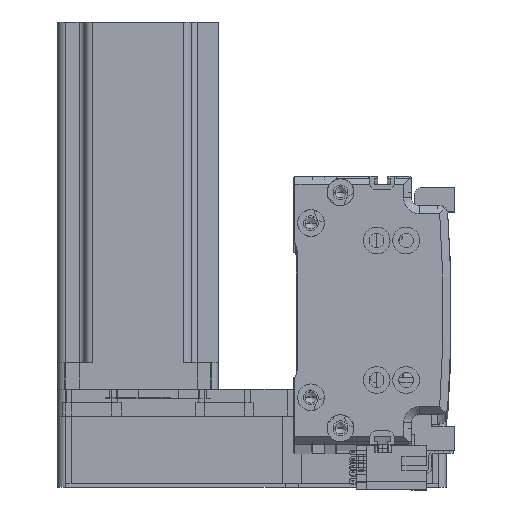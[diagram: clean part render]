
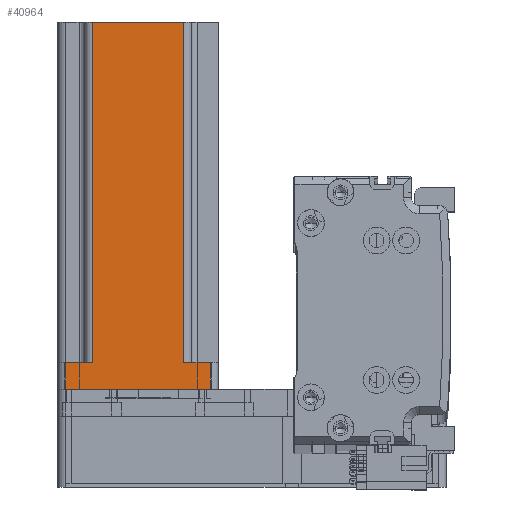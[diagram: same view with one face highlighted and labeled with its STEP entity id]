
A CAD part, top view. The second image highlights one B-rep face of the part: STEP entity #40964.
In plain terms, the highlighted planar face has unit normal (0, 0, 1) as drawn and (0, 1, 0) by its records, which use the part's own axes.
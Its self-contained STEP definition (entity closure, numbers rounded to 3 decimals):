
#1918 = DIRECTION ( 'NONE',  ( 0., -1., 0. ) ) ;
#2081 = LINE ( 'NONE', #56407, #14012 ) ;
#2685 = CARTESIAN_POINT ( 'NONE',  ( -17., 30., 10. ) ) ;
#3516 = CARTESIAN_POINT ( 'NONE',  ( -17., 30., 137. ) ) ;
#4682 = ORIENTED_EDGE ( 'NONE', *, *, #38239, .T. ) ;
#5102 = DIRECTION ( 'NONE',  ( 0., 0., 1. ) ) ;
#6362 = CARTESIAN_POINT ( 'NONE',  ( 27., 30., 0. ) ) ;
#6747 = LINE ( 'NONE', #44540, #59322 ) ;
#7753 = AXIS2_PLACEMENT_3D ( 'NONE', #32478, #1918, #37545 ) ;
#8134 = ORIENTED_EDGE ( 'NONE', *, *, #38526, .F. ) ;
#9488 = LINE ( 'NONE', #22908, #21506 ) ;
#10273 = CARTESIAN_POINT ( 'NONE',  ( -27., 30., 10. ) ) ;
#11523 = DIRECTION ( 'NONE',  ( -1., 0., 0. ) ) ;
#11804 = ORIENTED_EDGE ( 'NONE', *, *, #30754, .T. ) ;
#11969 = VERTEX_POINT ( 'NONE', #55093 ) ;
#12232 = LINE ( 'NONE', #42052, #24224 ) ;
#13953 = DIRECTION ( 'NONE',  ( 0., 0., -1. ) ) ;
#14012 = VECTOR ( 'NONE', #61522, 1000. ) ;
#18457 = VERTEX_POINT ( 'NONE', #2685 ) ;
#21506 = VECTOR ( 'NONE', #58494, 1000. ) ;
#22474 = VERTEX_POINT ( 'NONE', #60575 ) ;
#22862 = VERTEX_POINT ( 'NONE', #3516 ) ;
#22908 = CARTESIAN_POINT ( 'NONE',  ( -20., 30., 10. ) ) ;
#23657 = VECTOR ( 'NONE', #25505, 1000. ) ;
#24224 = VECTOR ( 'NONE', #11523, 1000. ) ;
#24299 = DIRECTION ( 'NONE',  ( 0., 0., -1. ) ) ;
#24547 = FACE_OUTER_BOUND ( 'NONE', #37800, .T. ) ;
#25505 = DIRECTION ( 'NONE',  ( 0., 0., 1. ) ) ;
#26694 = EDGE_CURVE ( 'NONE', #37294, #56216, #51930, .T. ) ;
#28521 = ORIENTED_EDGE ( 'NONE', *, *, #37730, .F. ) ;
#30754 = EDGE_CURVE ( 'NONE', #18457, #22862, #61457, .T. ) ;
#32478 = CARTESIAN_POINT ( 'NONE',  ( 30., 30., 137. ) ) ;
#34387 = VECTOR ( 'NONE', #5102, 1000. ) ;
#34686 = ORIENTED_EDGE ( 'NONE', *, *, #40461, .T. ) ;
#37171 = LINE ( 'NONE', #55994, #23657 ) ;
#37294 = VERTEX_POINT ( 'NONE', #6362 ) ;
#37545 = DIRECTION ( 'NONE',  ( 1., 0., 0. ) ) ;
#37730 = EDGE_CURVE ( 'NONE', #11969, #22862, #2081, .T. ) ;
#37800 = EDGE_LOOP ( 'NONE', ( #34686, #11804, #28521, #4682, #8134, #42064, #61815, #65740 ) ) ;
#38239 = EDGE_CURVE ( 'NONE', #11969, #57030, #6747, .T. ) ;
#38331 = VECTOR ( 'NONE', #49405, 1000. ) ;
#38526 = EDGE_CURVE ( 'NONE', #22474, #57030, #12232, .T. ) ;
#39605 = VERTEX_POINT ( 'NONE', #10273 ) ;
#40461 = EDGE_CURVE ( 'NONE', #39605, #18457, #9488, .T. ) ;
#40726 = CARTESIAN_POINT ( 'NONE',  ( -17., 30., 137. ) ) ;
#40964 = ADVANCED_FACE ( 'NONE', ( #24547 ), #42458, .F. ) ;
#41368 = EDGE_CURVE ( 'NONE', #56216, #39605, #37171, .T. ) ;
#42052 = CARTESIAN_POINT ( 'NONE',  ( 20., 30., 10. ) ) ;
#42062 = VECTOR ( 'NONE', #13953, 1000. ) ;
#42064 = ORIENTED_EDGE ( 'NONE', *, *, #43267, .T. ) ;
#42458 = PLANE ( 'NONE',  #7753 ) ;
#43267 = EDGE_CURVE ( 'NONE', #22474, #37294, #55626, .T. ) ;
#44138 = CARTESIAN_POINT ( 'NONE',  ( 17., 30., 10. ) ) ;
#44494 = CARTESIAN_POINT ( 'NONE',  ( 27., 30., 137. ) ) ;
#44540 = CARTESIAN_POINT ( 'NONE',  ( 17., 30., 137. ) ) ;
#49405 = DIRECTION ( 'NONE',  ( -1., 0., 0. ) ) ;
#51930 = LINE ( 'NONE', #54541, #38331 ) ;
#54541 = CARTESIAN_POINT ( 'NONE',  ( 30., 30., 0. ) ) ;
#55093 = CARTESIAN_POINT ( 'NONE',  ( 17., 30., 137. ) ) ;
#55626 = LINE ( 'NONE', #44494, #42062 ) ;
#55994 = CARTESIAN_POINT ( 'NONE',  ( -27., 30., 137. ) ) ;
#56216 = VERTEX_POINT ( 'NONE', #65578 ) ;
#56407 = CARTESIAN_POINT ( 'NONE',  ( 30., 30., 137. ) ) ;
#57030 = VERTEX_POINT ( 'NONE', #44138 ) ;
#58494 = DIRECTION ( 'NONE',  ( 1., 0., 0. ) ) ;
#59322 = VECTOR ( 'NONE', #24299, 1000. ) ;
#60575 = CARTESIAN_POINT ( 'NONE',  ( 27., 30., 10. ) ) ;
#61457 = LINE ( 'NONE', #40726, #34387 ) ;
#61522 = DIRECTION ( 'NONE',  ( -1., 0., 0. ) ) ;
#61815 = ORIENTED_EDGE ( 'NONE', *, *, #26694, .T. ) ;
#65578 = CARTESIAN_POINT ( 'NONE',  ( -27., 30., 0. ) ) ;
#65740 = ORIENTED_EDGE ( 'NONE', *, *, #41368, .T. ) ;
